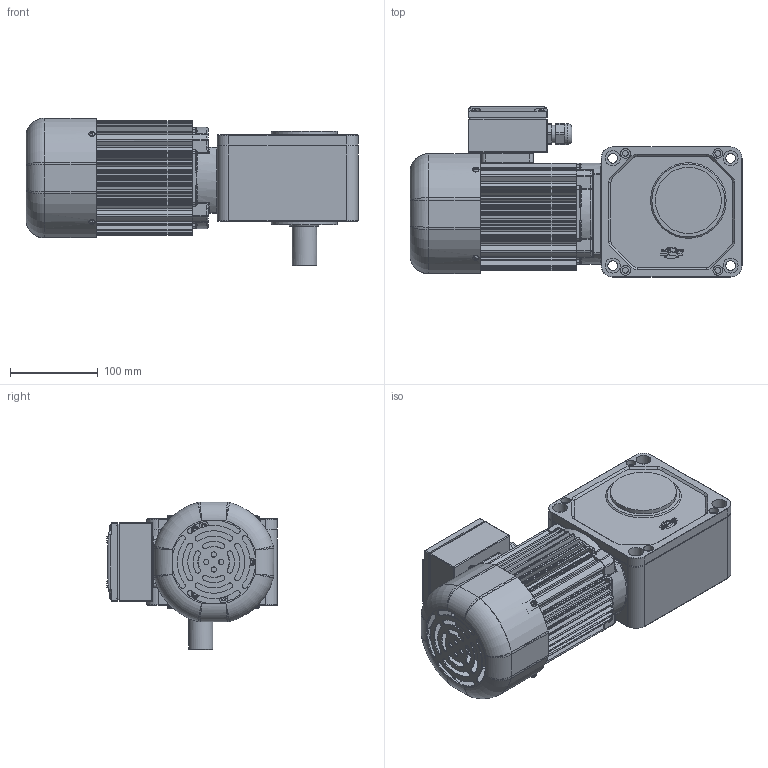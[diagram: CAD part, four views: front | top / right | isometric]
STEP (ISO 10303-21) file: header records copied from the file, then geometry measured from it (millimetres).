
FILE_DESCRIPTION(/* description */ (''),/* implementation_level */ '2;1');
FILE_NAME(/* name */ 'Z:\동력 3D 파일\PCS28R_0.2kW_Brake_3D.stp',/* time_stamp */ '2021-11-09T11:02:15+09:00',/* author */ ('jaebok'),/* organization */ (''),/* preprocessor_version */ 'ST-DEVELOPER v18.1',/* originating_system */ 'Autodesk Inventor 2022',/* authorisation */ '');
FILE_SCHEMA (('AUTOMOTIVE_DESIGN { 1 0 10303 214 3 1 1 }'));
Products named in the file (1): 부품46
Bounding box: 377.5 x 193.5 x 168.2 mm (x, y, z)
Volume: 2084660.7 mm3; surface area: 593610.6 mm2
Topology: 2 solids, 26 shells, 2099 faces, 5331 edges, 3370 vertices
Faces by surface type: plane 983, cylinder 796, torus 106, bspline 101, cone 101, sphere 12
Full cylindrical faces by diameter (mm): 1.5 x2, 2 x4, 3 x4, 3.242 x4, 3.25 x1, 3.3 x8, 3.6 x4, 3.8 x3, 4 x20, 4.2 x9, 5 x18, 5.8 x2, 5.9 x3, 6 x17, 6.4 x1, 6.5 x10, 6.647 x1, 7 x12, 7.9 x6, 8 x4, 8.5 x1, 8.7 x1, 10 x1, 11 x8, 12.5 x1, 15 x1, 16 x1, 17 x12, 20 x2, 21 x1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
Entity records: 71519 total; most frequent: CARTESIAN_POINT 18425, DIRECTION 11064, ORIENTED_EDGE 10548, EDGE_CURVE 5274, AXIS2_PLACEMENT_3D 4175, VERTEX_POINT 3365, LINE 2714, VECTOR 2714
